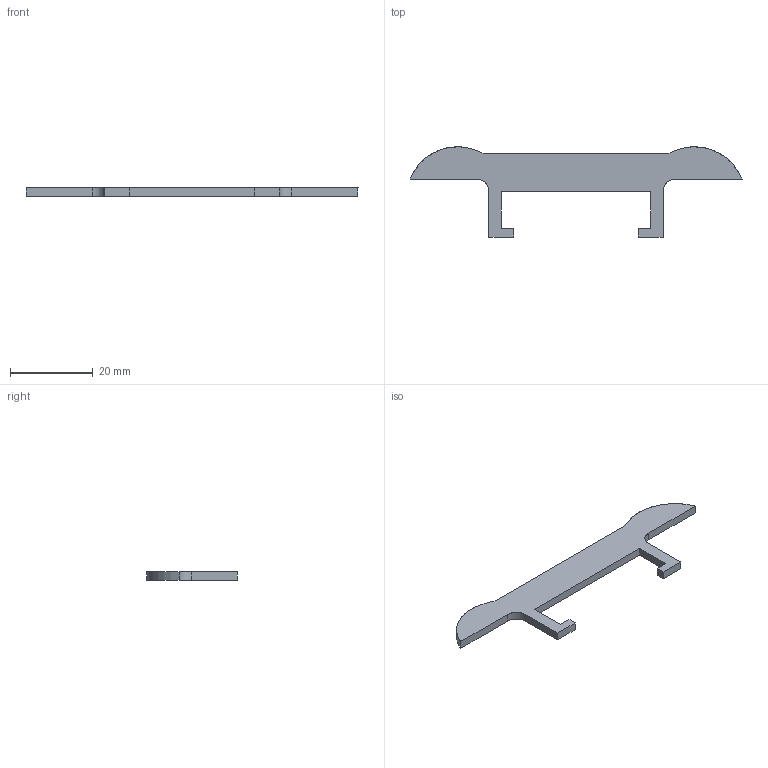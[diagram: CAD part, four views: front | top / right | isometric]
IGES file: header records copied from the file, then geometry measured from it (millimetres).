
Start section: SolidWorks IGES file using analytic representation for surfaces
Global section: file name: C:\Documents and Settings\URETIM3\Desktop\yeni katalog tolgay düzenli\E kataloðu\ÇÝFT KULAKLI C PROFÝL ALPOLEN 1000\206 YD3 001.IGS; native system: SolidWorks 2006 by SolidWorks Corporation; preprocessor: SolidWorks 2006 by SolidWorks Corporation; author: URETIM3; date: 060912.174646; units: millimetre
Bounding box: 80 x 21.77 x 2 mm (x, y, z)
Surface area: 1858.3 mm2 (no closed solid volume)
Topology: 0 solids, 0 shells, 22 faces, 176 edges, 176 vertices
Faces by surface type: bspline 18, revolution 4
